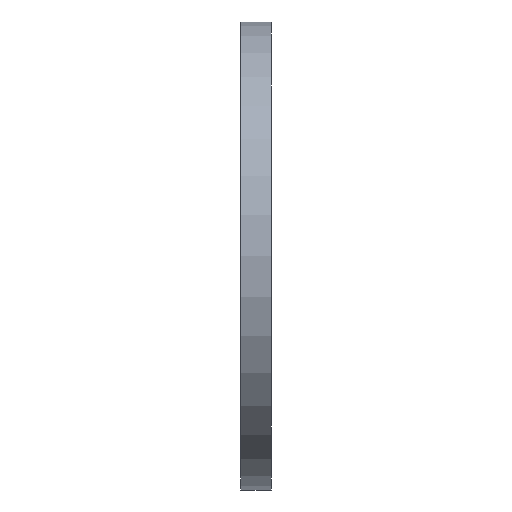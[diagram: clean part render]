
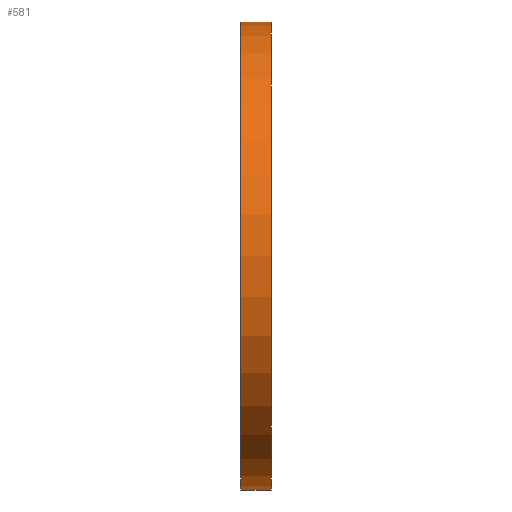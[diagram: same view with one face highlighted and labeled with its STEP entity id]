
A CAD part, left-side view. The second image highlights one B-rep face of the part: STEP entity #581.
In plain terms, the highlighted cylindrical face has radius 197.5 mm (diameter 395 mm), a partial arc.
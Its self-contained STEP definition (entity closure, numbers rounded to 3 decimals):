
#7 = VERTEX_POINT ( 'NONE', #593 ) ;
#154 = CIRCLE ( 'NONE', #464, 197.5 ) ;
#164 = ORIENTED_EDGE ( 'NONE', *, *, #930, .T. ) ;
#188 = EDGE_LOOP ( 'NONE', ( #1097, #677, #164, #427 ) ) ;
#255 = VERTEX_POINT ( 'NONE', #356 ) ;
#267 = DIRECTION ( 'NONE',  ( 0., 0., 1. ) ) ;
#334 = VECTOR ( 'NONE', #611, 1000. ) ;
#356 = CARTESIAN_POINT ( 'NONE',  ( 0., 26., -197.5 ) ) ;
#410 = AXIS2_PLACEMENT_3D ( 'NONE', #912, #502, #420 ) ;
#420 = DIRECTION ( 'NONE',  ( 0., 0., 1. ) ) ;
#427 = ORIENTED_EDGE ( 'NONE', *, *, #922, .F. ) ;
#455 = CIRCLE ( 'NONE', #874, 197.5 ) ;
#464 = AXIS2_PLACEMENT_3D ( 'NONE', #775, #699, #1001 ) ;
#491 = EDGE_CURVE ( 'NONE', #1115, #7, #154, .T. ) ;
#502 = DIRECTION ( 'NONE',  ( 0., 1., 0. ) ) ;
#518 = LINE ( 'NONE', #618, #334 ) ;
#525 = DIRECTION ( 'NONE',  ( 0., 1., 0. ) ) ;
#558 = VECTOR ( 'NONE', #525, 1000. ) ;
#581 = ADVANCED_FACE ( 'NONE', ( #1100 ), #599, .T. ) ;
#593 = CARTESIAN_POINT ( 'NONE',  ( 0., 0., 197.5 ) ) ;
#599 = CYLINDRICAL_SURFACE ( 'NONE', #410, 197.5 ) ;
#608 = VERTEX_POINT ( 'NONE', #634 ) ;
#611 = DIRECTION ( 'NONE',  ( 0., 1., 0. ) ) ;
#618 = CARTESIAN_POINT ( 'NONE',  ( 0., 34.695, -197.5 ) ) ;
#624 = DIRECTION ( 'NONE',  ( 0., 1., 0. ) ) ;
#634 = CARTESIAN_POINT ( 'NONE',  ( 0., 26., 197.5 ) ) ;
#677 = ORIENTED_EDGE ( 'NONE', *, *, #491, .T. ) ;
#699 = DIRECTION ( 'NONE',  ( 0., 1., 0. ) ) ;
#721 = LINE ( 'NONE', #975, #558 ) ;
#775 = CARTESIAN_POINT ( 'NONE',  ( 0., 0., 0. ) ) ;
#874 = AXIS2_PLACEMENT_3D ( 'NONE', #1075, #624, #267 ) ;
#912 = CARTESIAN_POINT ( 'NONE',  ( 0., 34.695, 0. ) ) ;
#920 = EDGE_CURVE ( 'NONE', #1115, #255, #518, .T. ) ;
#922 = EDGE_CURVE ( 'NONE', #255, #608, #455, .T. ) ;
#930 = EDGE_CURVE ( 'NONE', #7, #608, #721, .T. ) ;
#931 = CARTESIAN_POINT ( 'NONE',  ( 0., 0., -197.5 ) ) ;
#975 = CARTESIAN_POINT ( 'NONE',  ( 0., 34.695, 197.5 ) ) ;
#1001 = DIRECTION ( 'NONE',  ( 0., 0., 1. ) ) ;
#1075 = CARTESIAN_POINT ( 'NONE',  ( 0., 26., 0. ) ) ;
#1097 = ORIENTED_EDGE ( 'NONE', *, *, #920, .F. ) ;
#1100 = FACE_OUTER_BOUND ( 'NONE', #188, .T. ) ;
#1115 = VERTEX_POINT ( 'NONE', #931 ) ;
